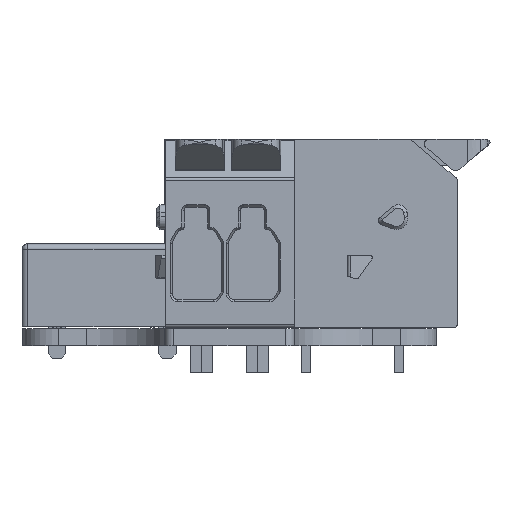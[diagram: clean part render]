
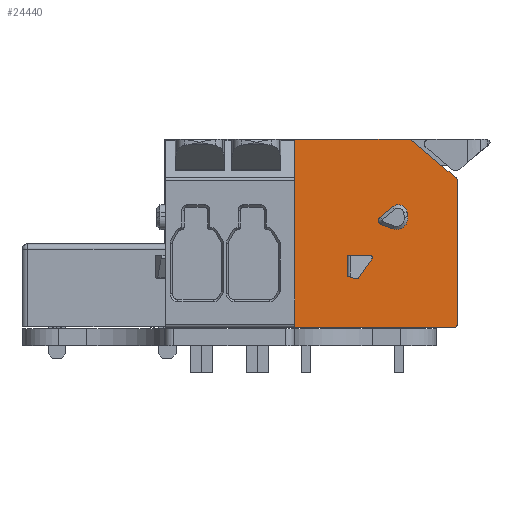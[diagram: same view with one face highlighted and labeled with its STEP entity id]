
A CAD part, left-side view. The second image highlights one B-rep face of the part: STEP entity #24440.
In plain terms, the highlighted planar face has unit normal (-1, 0, 0) as drawn and (0, 0, 1) by its records, which use the part's own axes.
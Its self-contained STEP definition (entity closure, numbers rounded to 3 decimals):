
#21754 = VERTEX_POINT('',#21755);
#21755 = CARTESIAN_POINT('',(5.2,0.3,50.));
#21772 = VERTEX_POINT('',#21773);
#21773 = CARTESIAN_POINT('',(5.2,13.06,50.));
#21779 = EDGE_CURVE('',#21754,#21772,#21780,.T.);
#21780 = LINE('',#21781,#21782);
#21781 = CARTESIAN_POINT('',(5.2,0.3,50.));
#21782 = VECTOR('',#21783,1.);
#21783 = DIRECTION('',(0.,1.,0.));
#24278 = VERTEX_POINT('',#24279);
#24279 = CARTESIAN_POINT('',(-4.452,4.515,50.));
#24285 = EDGE_CURVE('',#24278,#24286,#24288,.T.);
#24286 = VERTEX_POINT('',#24287);
#24287 = CARTESIAN_POINT('',(-3.785,4.336,50.));
#24288 = LINE('',#24289,#24290);
#24289 = CARTESIAN_POINT('',(-4.452,4.515,50.));
#24290 = VECTOR('',#24291,1.);
#24291 = DIRECTION('',(0.966,-0.259,0.));
#24317 = EDGE_CURVE('',#24286,#24318,#24320,.T.);
#24318 = VERTEX_POINT('',#24319);
#24319 = CARTESIAN_POINT('',(-3.57,4.415,50.));
#24320 = CIRCLE('',#24321,0.2);
#24321 = AXIS2_PLACEMENT_3D('',#24322,#24323,#24324);
#24322 = CARTESIAN_POINT('',(-3.734,4.529,50.));
#24323 = DIRECTION('',(0.,0.,1.));
#24324 = DIRECTION('',(1.,0.,-0.));
#24349 = EDGE_CURVE('',#24318,#24350,#24352,.T.);
#24350 = VERTEX_POINT('',#24351);
#24351 = CARTESIAN_POINT('',(-2.4,6.085,50.));
#24352 = LINE('',#24353,#24354);
#24353 = CARTESIAN_POINT('',(-3.57,4.415,50.));
#24354 = VECTOR('',#24355,1.);
#24355 = DIRECTION('',(0.574,0.819,0.));
#24381 = EDGE_CURVE('',#24350,#24382,#24384,.T.);
#24382 = VERTEX_POINT('',#24383);
#24383 = CARTESIAN_POINT('',(-2.564,6.4,50.));
#24384 = CIRCLE('',#24385,0.2);
#24385 = AXIS2_PLACEMENT_3D('',#24386,#24387,#24388);
#24386 = CARTESIAN_POINT('',(-2.564,6.2,50.));
#24387 = DIRECTION('',(0.,0.,1.));
#24388 = DIRECTION('',(1.,0.,-0.));
#24413 = EDGE_CURVE('',#24382,#24414,#24416,.T.);
#24414 = VERTEX_POINT('',#24415);
#24415 = CARTESIAN_POINT('',(-4.4,6.4,50.));
#24416 = LINE('',#24417,#24418);
#24417 = CARTESIAN_POINT('',(-2.564,6.4,50.));
#24418 = VECTOR('',#24419,1.);
#24419 = DIRECTION('',(-1.,0.,0.));
#24440 = ADVANCED_FACE('',(#24441,#24519,#24550),#24603,.T.);
#24441 = FACE_BOUND('',#24442,.T.);
#24442 = EDGE_LOOP('',(#24443,#24453,#24460,#24461,#24470,#24478,#24487,
    #24495,#24504,#24512));
#24443 = ORIENTED_EDGE('',*,*,#24444,.T.);
#24444 = EDGE_CURVE('',#24445,#24447,#24449,.T.);
#24445 = VERTEX_POINT('',#24446);
#24446 = CARTESIAN_POINT('',(-10.8,0.,50.));
#24447 = VERTEX_POINT('',#24448);
#24448 = CARTESIAN_POINT('',(4.9,0.,50.));
#24449 = LINE('',#24450,#24451);
#24450 = CARTESIAN_POINT('',(-10.8,0.,50.));
#24451 = VECTOR('',#24452,1.);
#24452 = DIRECTION('',(1.,0.,0.));
#24453 = ORIENTED_EDGE('',*,*,#24454,.T.);
#24454 = EDGE_CURVE('',#24447,#21754,#24455,.T.);
#24455 = CIRCLE('',#24456,0.3);
#24456 = AXIS2_PLACEMENT_3D('',#24457,#24458,#24459);
#24457 = CARTESIAN_POINT('',(4.9,0.3,50.));
#24458 = DIRECTION('',(0.,0.,1.));
#24459 = DIRECTION('',(1.,0.,-0.));
#24460 = ORIENTED_EDGE('',*,*,#21779,.T.);
#24461 = ORIENTED_EDGE('',*,*,#24462,.T.);
#24462 = EDGE_CURVE('',#21772,#24463,#24465,.T.);
#24463 = VERTEX_POINT('',#24464);
#24464 = CARTESIAN_POINT('',(5.093,13.29,50.));
#24465 = CIRCLE('',#24466,0.3);
#24466 = AXIS2_PLACEMENT_3D('',#24467,#24468,#24469);
#24467 = CARTESIAN_POINT('',(4.9,13.06,50.));
#24468 = DIRECTION('',(0.,0.,1.));
#24469 = DIRECTION('',(1.,0.,-0.));
#24470 = ORIENTED_EDGE('',*,*,#24471,.T.);
#24471 = EDGE_CURVE('',#24463,#24472,#24474,.T.);
#24472 = VERTEX_POINT('',#24473);
#24473 = CARTESIAN_POINT('',(1.113,16.63,50.));
#24474 = LINE('',#24475,#24476);
#24475 = CARTESIAN_POINT('',(5.093,13.29,50.));
#24476 = VECTOR('',#24477,1.);
#24477 = DIRECTION('',(-0.766,0.643,0.));
#24478 = ORIENTED_EDGE('',*,*,#24479,.T.);
#24479 = EDGE_CURVE('',#24472,#24480,#24482,.T.);
#24480 = VERTEX_POINT('',#24481);
#24481 = CARTESIAN_POINT('',(0.92,16.7,50.));
#24482 = CIRCLE('',#24483,0.3);
#24483 = AXIS2_PLACEMENT_3D('',#24484,#24485,#24486);
#24484 = CARTESIAN_POINT('',(0.92,16.4,50.));
#24485 = DIRECTION('',(0.,0.,1.));
#24486 = DIRECTION('',(1.,0.,-0.));
#24487 = ORIENTED_EDGE('',*,*,#24488,.T.);
#24488 = EDGE_CURVE('',#24480,#24489,#24491,.T.);
#24489 = VERTEX_POINT('',#24490);
#24490 = CARTESIAN_POINT('',(-10.6,16.7,50.));
#24491 = LINE('',#24492,#24493);
#24492 = CARTESIAN_POINT('',(0.92,16.7,50.));
#24493 = VECTOR('',#24494,1.);
#24494 = DIRECTION('',(-1.,0.,0.));
#24495 = ORIENTED_EDGE('',*,*,#24496,.T.);
#24496 = EDGE_CURVE('',#24489,#24497,#24499,.T.);
#24497 = VERTEX_POINT('',#24498);
#24498 = CARTESIAN_POINT('',(-11.1,16.2,50.));
#24499 = CIRCLE('',#24500,0.5);
#24500 = AXIS2_PLACEMENT_3D('',#24501,#24502,#24503);
#24501 = CARTESIAN_POINT('',(-10.6,16.2,50.));
#24502 = DIRECTION('',(0.,0.,1.));
#24503 = DIRECTION('',(1.,0.,-0.));
#24504 = ORIENTED_EDGE('',*,*,#24505,.T.);
#24505 = EDGE_CURVE('',#24497,#24506,#24508,.T.);
#24506 = VERTEX_POINT('',#24507);
#24507 = CARTESIAN_POINT('',(-11.1,0.3,50.));
#24508 = LINE('',#24509,#24510);
#24509 = CARTESIAN_POINT('',(-11.1,16.2,50.));
#24510 = VECTOR('',#24511,1.);
#24511 = DIRECTION('',(0.,-1.,0.));
#24512 = ORIENTED_EDGE('',*,*,#24513,.T.);
#24513 = EDGE_CURVE('',#24506,#24445,#24514,.T.);
#24514 = CIRCLE('',#24515,0.3);
#24515 = AXIS2_PLACEMENT_3D('',#24516,#24517,#24518);
#24516 = CARTESIAN_POINT('',(-10.8,0.3,50.));
#24517 = DIRECTION('',(0.,0.,1.));
#24518 = DIRECTION('',(1.,0.,-0.));
#24519 = FACE_BOUND('',#24520,.T.);
#24520 = EDGE_LOOP('',(#24521,#24531,#24538,#24539,#24540,#24541,#24542,
    #24543));
#24521 = ORIENTED_EDGE('',*,*,#24522,.F.);
#24522 = EDGE_CURVE('',#24523,#24525,#24527,.T.);
#24523 = VERTEX_POINT('',#24524);
#24524 = CARTESIAN_POINT('',(-4.6,6.2,50.));
#24525 = VERTEX_POINT('',#24526);
#24526 = CARTESIAN_POINT('',(-4.6,4.708,50.));
#24527 = LINE('',#24528,#24529);
#24528 = CARTESIAN_POINT('',(-4.6,6.2,50.));
#24529 = VECTOR('',#24530,1.);
#24530 = DIRECTION('',(0.,-1.,0.));
#24531 = ORIENTED_EDGE('',*,*,#24532,.F.);
#24532 = EDGE_CURVE('',#24414,#24523,#24533,.T.);
#24533 = CIRCLE('',#24534,0.2);
#24534 = AXIS2_PLACEMENT_3D('',#24535,#24536,#24537);
#24535 = CARTESIAN_POINT('',(-4.4,6.2,50.));
#24536 = DIRECTION('',(0.,0.,1.));
#24537 = DIRECTION('',(1.,0.,-0.));
#24538 = ORIENTED_EDGE('',*,*,#24413,.F.);
#24539 = ORIENTED_EDGE('',*,*,#24381,.F.);
#24540 = ORIENTED_EDGE('',*,*,#24349,.F.);
#24541 = ORIENTED_EDGE('',*,*,#24317,.F.);
#24542 = ORIENTED_EDGE('',*,*,#24285,.F.);
#24543 = ORIENTED_EDGE('',*,*,#24544,.F.);
#24544 = EDGE_CURVE('',#24525,#24278,#24545,.T.);
#24545 = CIRCLE('',#24546,0.2);
#24546 = AXIS2_PLACEMENT_3D('',#24547,#24548,#24549);
#24547 = CARTESIAN_POINT('',(-4.4,4.708,50.));
#24548 = DIRECTION('',(0.,0.,1.));
#24549 = DIRECTION('',(1.,0.,-0.));
#24550 = FACE_BOUND('',#24551,.T.);
#24551 = EDGE_LOOP('',(#24552,#24563,#24571,#24580,#24588,#24597));
#24552 = ORIENTED_EDGE('',*,*,#24553,.F.);
#24553 = EDGE_CURVE('',#24554,#24556,#24558,.T.);
#24554 = VERTEX_POINT('',#24555);
#24555 = CARTESIAN_POINT('',(-1.655,9.808,50.));
#24556 = VERTEX_POINT('',#24557);
#24557 = CARTESIAN_POINT('',(-1.537,9.124,50.));
#24558 = CIRCLE('',#24559,0.4);
#24559 = AXIS2_PLACEMENT_3D('',#24560,#24561,#24562);
#24560 = CARTESIAN_POINT('',(-1.4,9.5,50.));
#24561 = DIRECTION('',(0.,0.,1.));
#24562 = DIRECTION('',(1.,0.,-0.));
#24563 = ORIENTED_EDGE('',*,*,#24564,.F.);
#24564 = EDGE_CURVE('',#24565,#24554,#24567,.T.);
#24565 = VERTEX_POINT('',#24566);
#24566 = CARTESIAN_POINT('',(-0.561,10.716,50.));
#24567 = LINE('',#24568,#24569);
#24568 = CARTESIAN_POINT('',(-0.561,10.716,50.));
#24569 = VECTOR('',#24570,1.);
#24570 = DIRECTION('',(-0.77,-0.638,0.));
#24571 = ORIENTED_EDGE('',*,*,#24572,.F.);
#24572 = EDGE_CURVE('',#24573,#24565,#24575,.T.);
#24573 = VERTEX_POINT('',#24574);
#24574 = CARTESIAN_POINT('',(0.743,10.202,50.));
#24575 = CIRCLE('',#24576,0.8);
#24576 = AXIS2_PLACEMENT_3D('',#24577,#24578,#24579);
#24577 = CARTESIAN_POINT('',(-0.05,10.1,50.));
#24578 = DIRECTION('',(0.,0.,1.));
#24579 = DIRECTION('',(1.,0.,-0.));
#24580 = ORIENTED_EDGE('',*,*,#24581,.F.);
#24581 = EDGE_CURVE('',#24582,#24573,#24584,.T.);
#24582 = VERTEX_POINT('',#24583);
#24583 = CARTESIAN_POINT('',(0.792,9.828,50.));
#24584 = LINE('',#24585,#24586);
#24585 = CARTESIAN_POINT('',(0.792,9.828,50.));
#24586 = VECTOR('',#24587,1.);
#24587 = DIRECTION('',(-0.128,0.992,0.));
#24588 = ORIENTED_EDGE('',*,*,#24589,.F.);
#24589 = EDGE_CURVE('',#24590,#24582,#24592,.T.);
#24590 = VERTEX_POINT('',#24591);
#24591 = CARTESIAN_POINT('',(-0.543,8.761,50.));
#24592 = CIRCLE('',#24593,1.);
#24593 = AXIS2_PLACEMENT_3D('',#24594,#24595,#24596);
#24594 = CARTESIAN_POINT('',(-0.2,9.7,50.));
#24595 = DIRECTION('',(0.,0.,1.));
#24596 = DIRECTION('',(1.,0.,-0.));
#24597 = ORIENTED_EDGE('',*,*,#24598,.F.);
#24598 = EDGE_CURVE('',#24556,#24590,#24599,.T.);
#24599 = LINE('',#24600,#24601);
#24600 = CARTESIAN_POINT('',(-1.537,9.124,50.));
#24601 = VECTOR('',#24602,1.);
#24602 = DIRECTION('',(0.939,-0.343,0.));
#24603 = PLANE('',#24604);
#24604 = AXIS2_PLACEMENT_3D('',#24605,#24606,#24607);
#24605 = CARTESIAN_POINT('',(-10.6,16.2,50.));
#24606 = DIRECTION('',(0.,0.,1.));
#24607 = DIRECTION('',(1.,0.,-0.));
